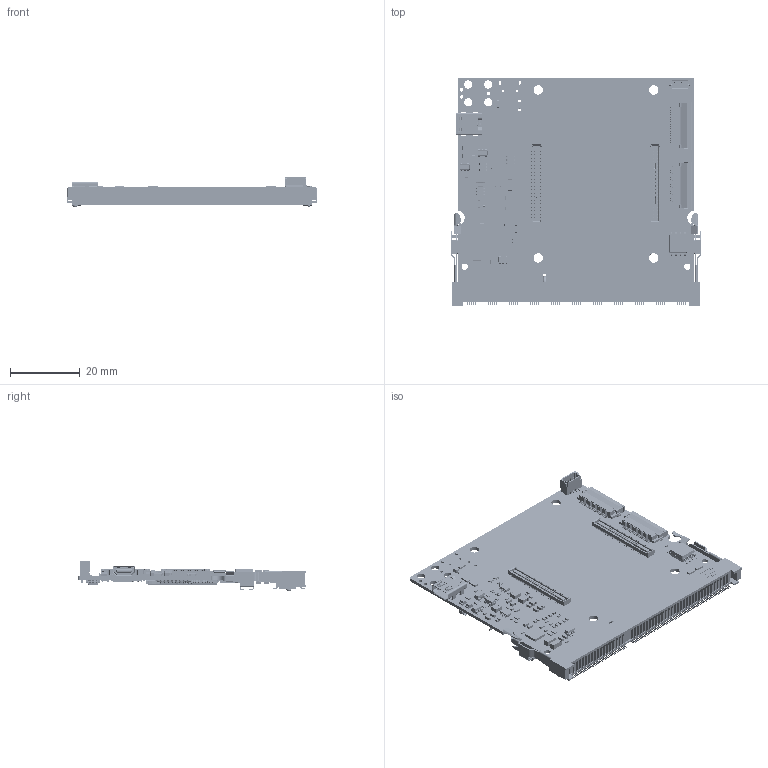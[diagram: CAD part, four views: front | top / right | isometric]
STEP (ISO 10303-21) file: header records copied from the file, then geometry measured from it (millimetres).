
FILE_DESCRIPTION(('KiCad electronic assembly'),'2;1');
FILE_NAME('hw-xbot-core2.step','2024-06-11T17:31:02',('Pcbnew'),('Kicad' ),'Open CASCADE STEP processor 7.6','KiCad to STEP converter', 'Unknown');
FILE_SCHEMA(('AUTOMOTIVE_DESIGN { 1 0 10303 214 1 1 1 1 }'));
Length unit declared in the file: millimetre
Products named in the file (58): hw-xbot-core2 1; C_0402_1005Metric; R_0603_1608Metric; C_0603_1608Metric; LED_0805_2012Metric; SOT-23-5; SOT_23_5; 467651001; LED0606; HSMF-C114; USON-10_2.5x1.0mm_P0.5mm; USON_10_25x10mm_Pitch05mm; L_1008_2520Metric; SOIC-8_5.275x5.275mm_P1.27mm; SOIC_8_5275x5275mm_P127mm; R_0402_1005Metric; D_SOD-323; D_SOD_323; C_1206_3216Metric; c-2-2013289-1-b-3d; C-2-2013289-1; FH12-22S-0.5SH; FH12-22S-0.5SH_Èª; BM04B-SRSS-TB-LF--SN---3DModel-STEP-56544; BM04B-SRSS-TBT(LF)(SN); QFN-24-1EP_4x4mm_P0.5mm_EP2.6x2.6mm; QFN-24-1EP_4x4mm_Pitch0.5mm; DF40C_100DS_0.4V_51_; DF40C-100DS-0.4V(51); TSOT-23-6; TSOT_23_6; D_SOD-123; D_SOD_123; QFN-44-1EP_8x8mm_P0.65mm_EP6.6x6.6mm; QFN-44-1EP_8x8mm_Pitch0.65mm; Crystal_SMD_3225-4Pin_3.2x2.5mm; QFN-36-1EP_6x6mm_P0.5mm_EP3.7x3.7mm; QFN-36-1EP_6x6mm_Pitch0.5mm; LQFP-144_20x20mm_P0.5mm; LQFP_144_20x20mm_P05mm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
Assembly tree (229 placements, depth 3):
  hw-xbot-core2 1
    C_0402_1005Metric  x78
      C_0402_1005Metric
    R_0603_1608Metric  x13
      R_0603_1608Metric
    C_0603_1608Metric  x19
      C_0603_1608Metric
    LED_0805_2012Metric  x2
      LED_0805_2012Metric
    SOT-23-5  x4
      SOT_23_5
    467651001
      467651001
    LED0606  x2
      HSMF-C114
    USON-10_2.5x1.0mm_P0.5mm  x7
      USON_10_25x10mm_Pitch05mm
    L_1008_2520Metric  x4
      L_1008_2520Metric
    SOIC-8_5.275x5.275mm_P1.27mm
      SOIC_8_5275x5275mm_P127mm
    R_0402_1005Metric  x45
      R_0402_1005Metric
    D_SOD-323
      D_SOD_323
    C_1206_3216Metric  x2
      C_1206_3216Metric
    c-2-2013289-1-b-3d
      C-2-2013289-1
    FH12-22S-0.5SH  x2
      FH12-22S-0.5SH_Èª
    BM04B-SRSS-TB-LF--SN---3DModel-STEP-56544
      BM04B-SRSS-TBT(LF)(SN)
    QFN-24-1EP_4x4mm_P0.5mm_EP2.6x2.6mm
      QFN-24-1EP_4x4mm_Pitch0.5mm
    DF40C_100DS_0.4V_51_  x2
      DF40C-100DS-0.4V(51)
    TSOT-23-6  x2
      TSOT_23_6
    D_SOD-123  x2
      D_SOD_123
    QFN-44-1EP_8x8mm_P0.65mm_EP6.6x6.6mm
      QFN-44-1EP_8x8mm_Pitch0.65mm
    Crystal_SMD_3225-4Pin_3.2x2.5mm  x3
      Crystal_SMD_3225-4Pin_3.2x2.5mm
    QFN-36-1EP_6x6mm_P0.5mm_EP3.7x3.7mm
      QFN-36-1EP_6x6mm_Pitch0.5mm
    LQFP-144_20x20mm_P0.5mm
      LQFP_144_20x20mm_P05mm
    MSOP-10_3x3mm_P0.5mm
      MSOP_10_3x3mm_P05mm
    SOT-23-6
      SOT_23_6
    LGA-14_3x2.5mm_P0.5mm_LayoutBorder3x4y
      LGA_14_3x25mm_P05mm_LayoutBorder3x4y
    5033981892
      5033981892
    hw-xbot-core_PCB
Bounding box: 71.6 x 65.3 x 8.75 mm (x, y, z)
Volume: 7384.1 mm3; surface area: 17920.2 mm2
Topology: 429 solids, 429 shells, 31980 faces, 92540 edges, 61912 vertices
Faces by surface type: plane 25268, cylinder 6115, bspline 538, cone 46, torus 9, sphere 4
Full cylindrical faces by diameter (mm): 0.2 x8, 0.5 x5, 0.6 x3, 0.8 x2, 0.991 x3, 1.8 x2, 2.375 x4, 2.7 x4
Entity records: 647112 total; most frequent: CARTESIAN_POINT 116506, ORIENTED_EDGE 107786, DIRECTION 97602, EDGE_CURVE 53893, LINE 47442, VECTOR 47442, VERTEX_POINT 35328, AXIS2_PLACEMENT_3D 25080
